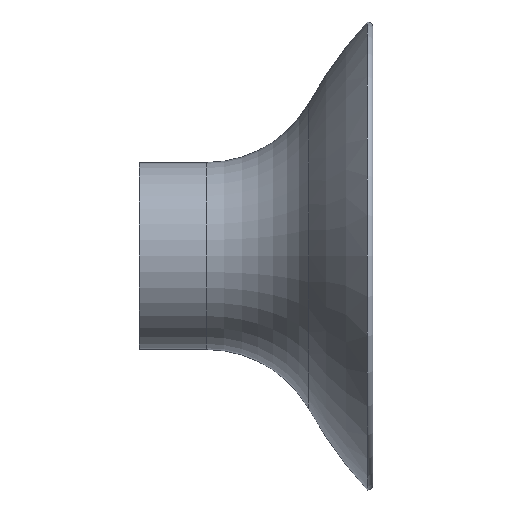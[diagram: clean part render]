
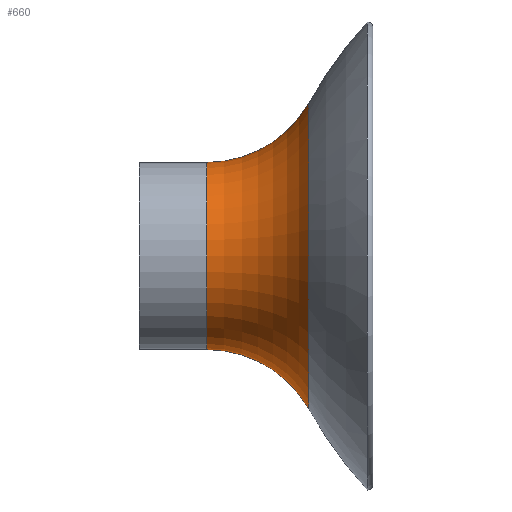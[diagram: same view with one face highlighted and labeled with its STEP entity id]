
A CAD part, left-side view. The second image highlights one B-rep face of the part: STEP entity #660.
In plain terms, the highlighted toroidal (fillet/blend) face has major radius 18 mm and minor radius 10 mm.
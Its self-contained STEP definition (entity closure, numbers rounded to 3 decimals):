
#14 = DIRECTION ( 'NONE',  ( 0., 0., 1. ) ) ;
#16 = CARTESIAN_POINT ( 'NONE',  ( 0., -14.493, -13.054 ) ) ;
#28 = CARTESIAN_POINT ( 'NONE',  ( 0., -5.802, -18. ) ) ;
#83 = CARTESIAN_POINT ( 'NONE',  ( 0., -5.802, 8. ) ) ;
#139 = DIRECTION ( 'NONE',  ( 0., 1., 0. ) ) ;
#154 = ORIENTED_EDGE ( 'NONE', *, *, #773, .T. ) ;
#188 = VERTEX_POINT ( 'NONE', #16 ) ;
#201 = DIRECTION ( 'NONE',  ( 0., 0., 1. ) ) ;
#204 = EDGE_CURVE ( 'NONE', #1122, #188, #1295, .T. ) ;
#240 = CARTESIAN_POINT ( 'NONE',  ( 0., -14.493, 13.054 ) ) ;
#310 = DIRECTION ( 'NONE',  ( -1., 0., 0. ) ) ;
#434 = EDGE_CURVE ( 'NONE', #452, #1407, #1143, .T. ) ;
#452 = VERTEX_POINT ( 'NONE', #83 ) ;
#494 = DIRECTION ( 'NONE',  ( 1., 0., 0. ) ) ;
#521 = AXIS2_PLACEMENT_3D ( 'NONE', #834, #1315, #14 ) ;
#648 = AXIS2_PLACEMENT_3D ( 'NONE', #903, #310, #201 ) ;
#659 = EDGE_LOOP ( 'NONE', ( #729, #896, #154, #1212 ) ) ;
#660 = ADVANCED_FACE ( 'NONE', ( #1014 ), #1106, .F. ) ;
#729 = ORIENTED_EDGE ( 'NONE', *, *, #1223, .F. ) ;
#730 = AXIS2_PLACEMENT_3D ( 'NONE', #28, #494, #853 ) ;
#773 = EDGE_CURVE ( 'NONE', #188, #1407, #911, .T. ) ;
#834 = CARTESIAN_POINT ( 'NONE',  ( 0., -5.802, 0. ) ) ;
#853 = DIRECTION ( 'NONE',  ( 0., 0., -1. ) ) ;
#896 = ORIENTED_EDGE ( 'NONE', *, *, #204, .T. ) ;
#903 = CARTESIAN_POINT ( 'NONE',  ( 0., -5.802, 18. ) ) ;
#908 = AXIS2_PLACEMENT_3D ( 'NONE', #1438, #139, #963 ) ;
#911 = CIRCLE ( 'NONE', #908, 13.054 ) ;
#947 = CARTESIAN_POINT ( 'NONE',  ( 0., -5.802, -8. ) ) ;
#963 = DIRECTION ( 'NONE',  ( 0., 0., 1. ) ) ;
#1014 = FACE_OUTER_BOUND ( 'NONE', #659, .T. ) ;
#1106 = TOROIDAL_SURFACE ( 'NONE', #521, 18., 10. ) ;
#1122 = VERTEX_POINT ( 'NONE', #947 ) ;
#1128 = CARTESIAN_POINT ( 'NONE',  ( 0., -5.802, 0. ) ) ;
#1134 = DIRECTION ( 'NONE',  ( 0., 0., 1. ) ) ;
#1137 = DIRECTION ( 'NONE',  ( 0., 1., 0. ) ) ;
#1143 = CIRCLE ( 'NONE', #648, 10. ) ;
#1212 = ORIENTED_EDGE ( 'NONE', *, *, #434, .F. ) ;
#1223 = EDGE_CURVE ( 'NONE', #1122, #452, #1232, .T. ) ;
#1232 = CIRCLE ( 'NONE', #1518, 8. ) ;
#1295 = CIRCLE ( 'NONE', #730, 10. ) ;
#1315 = DIRECTION ( 'NONE',  ( 0., 1., 0. ) ) ;
#1407 = VERTEX_POINT ( 'NONE', #240 ) ;
#1438 = CARTESIAN_POINT ( 'NONE',  ( 0., -14.493, 0. ) ) ;
#1518 = AXIS2_PLACEMENT_3D ( 'NONE', #1128, #1137, #1134 ) ;
